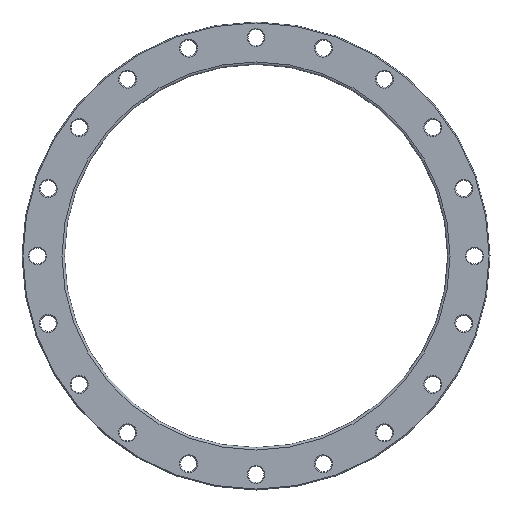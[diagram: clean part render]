
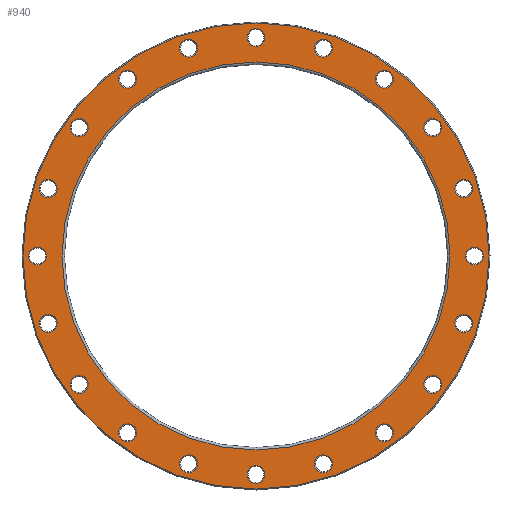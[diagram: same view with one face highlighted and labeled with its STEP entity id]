
A CAD part, front view. The second image highlights one B-rep face of the part: STEP entity #940.
In plain terms, the highlighted planar face has unit normal (0, -1, 0).
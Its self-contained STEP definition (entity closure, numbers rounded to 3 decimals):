
#23=PLANE('',#1104);
#206=ORIENTED_EDGE('',*,*,#325,.T.);
#207=ORIENTED_EDGE('',*,*,#326,.T.);
#208=ORIENTED_EDGE('',*,*,#244,.T.);
#209=ORIENTED_EDGE('',*,*,#248,.T.);
#210=ORIENTED_EDGE('',*,*,#252,.T.);
#211=ORIENTED_EDGE('',*,*,#256,.T.);
#212=ORIENTED_EDGE('',*,*,#260,.T.);
#213=ORIENTED_EDGE('',*,*,#264,.T.);
#214=ORIENTED_EDGE('',*,*,#268,.T.);
#215=ORIENTED_EDGE('',*,*,#272,.T.);
#216=ORIENTED_EDGE('',*,*,#276,.T.);
#217=ORIENTED_EDGE('',*,*,#280,.T.);
#218=ORIENTED_EDGE('',*,*,#284,.T.);
#219=ORIENTED_EDGE('',*,*,#288,.T.);
#220=ORIENTED_EDGE('',*,*,#292,.T.);
#221=ORIENTED_EDGE('',*,*,#296,.T.);
#222=ORIENTED_EDGE('',*,*,#300,.T.);
#223=ORIENTED_EDGE('',*,*,#304,.T.);
#224=ORIENTED_EDGE('',*,*,#308,.T.);
#225=ORIENTED_EDGE('',*,*,#312,.T.);
#226=ORIENTED_EDGE('',*,*,#316,.T.);
#227=ORIENTED_EDGE('',*,*,#327,.T.);
#244=EDGE_CURVE('',#332,#332,#420,.T.);
#248=EDGE_CURVE('',#336,#336,#424,.T.);
#252=EDGE_CURVE('',#340,#340,#428,.T.);
#256=EDGE_CURVE('',#344,#344,#432,.T.);
#260=EDGE_CURVE('',#348,#348,#436,.T.);
#264=EDGE_CURVE('',#352,#352,#440,.T.);
#268=EDGE_CURVE('',#356,#356,#444,.T.);
#272=EDGE_CURVE('',#360,#360,#448,.T.);
#276=EDGE_CURVE('',#364,#364,#452,.T.);
#280=EDGE_CURVE('',#368,#368,#456,.T.);
#284=EDGE_CURVE('',#372,#372,#460,.T.);
#288=EDGE_CURVE('',#376,#376,#464,.T.);
#292=EDGE_CURVE('',#380,#380,#468,.T.);
#296=EDGE_CURVE('',#384,#384,#472,.T.);
#300=EDGE_CURVE('',#388,#388,#476,.T.);
#304=EDGE_CURVE('',#392,#392,#480,.T.);
#308=EDGE_CURVE('',#396,#396,#484,.T.);
#312=EDGE_CURVE('',#400,#400,#488,.T.);
#316=EDGE_CURVE('',#404,#404,#492,.T.);
#325=EDGE_CURVE('',#413,#413,#501,.F.);
#326=EDGE_CURVE('',#414,#414,#502,.T.);
#327=EDGE_CURVE('',#415,#415,#503,.T.);
#332=VERTEX_POINT('',#1439);
#336=VERTEX_POINT('',#1450);
#340=VERTEX_POINT('',#1461);
#344=VERTEX_POINT('',#1472);
#348=VERTEX_POINT('',#1483);
#352=VERTEX_POINT('',#1494);
#356=VERTEX_POINT('',#1505);
#360=VERTEX_POINT('',#1516);
#364=VERTEX_POINT('',#1527);
#368=VERTEX_POINT('',#1538);
#372=VERTEX_POINT('',#1549);
#376=VERTEX_POINT('',#1560);
#380=VERTEX_POINT('',#1571);
#384=VERTEX_POINT('',#1582);
#388=VERTEX_POINT('',#1593);
#392=VERTEX_POINT('',#1604);
#396=VERTEX_POINT('',#1615);
#400=VERTEX_POINT('',#1626);
#404=VERTEX_POINT('',#1637);
#413=VERTEX_POINT('',#1660);
#414=VERTEX_POINT('',#1662);
#415=VERTEX_POINT('',#1664);
#420=CIRCLE('',#965,14.5);
#424=CIRCLE('',#972,14.5);
#428=CIRCLE('',#979,14.5);
#432=CIRCLE('',#986,14.5);
#436=CIRCLE('',#993,14.5);
#440=CIRCLE('',#1000,14.5);
#444=CIRCLE('',#1007,14.5);
#448=CIRCLE('',#1014,14.5);
#452=CIRCLE('',#1021,14.5);
#456=CIRCLE('',#1028,14.5);
#460=CIRCLE('',#1035,14.5);
#464=CIRCLE('',#1042,14.5);
#468=CIRCLE('',#1049,14.5);
#472=CIRCLE('',#1056,14.5);
#476=CIRCLE('',#1063,14.5);
#480=CIRCLE('',#1070,14.5);
#484=CIRCLE('',#1077,14.5);
#488=CIRCLE('',#1084,14.5);
#492=CIRCLE('',#1091,14.5);
#501=CIRCLE('',#1105,376.);
#502=CIRCLE('',#1106,313.);
#503=CIRCLE('',#1107,14.5);
#646=EDGE_LOOP('',(#206));
#647=EDGE_LOOP('',(#207));
#648=EDGE_LOOP('',(#208));
#649=EDGE_LOOP('',(#209));
#650=EDGE_LOOP('',(#210));
#651=EDGE_LOOP('',(#211));
#652=EDGE_LOOP('',(#212));
#653=EDGE_LOOP('',(#213));
#654=EDGE_LOOP('',(#214));
#655=EDGE_LOOP('',(#215));
#656=EDGE_LOOP('',(#216));
#657=EDGE_LOOP('',(#217));
#658=EDGE_LOOP('',(#218));
#659=EDGE_LOOP('',(#219));
#660=EDGE_LOOP('',(#220));
#661=EDGE_LOOP('',(#221));
#662=EDGE_LOOP('',(#222));
#663=EDGE_LOOP('',(#223));
#664=EDGE_LOOP('',(#224));
#665=EDGE_LOOP('',(#225));
#666=EDGE_LOOP('',(#226));
#667=EDGE_LOOP('',(#227));
#822=FACE_BOUND('',#646,.T.);
#823=FACE_BOUND('',#647,.T.);
#824=FACE_BOUND('',#648,.T.);
#825=FACE_BOUND('',#649,.T.);
#826=FACE_BOUND('',#650,.T.);
#827=FACE_BOUND('',#651,.T.);
#828=FACE_BOUND('',#652,.T.);
#829=FACE_BOUND('',#653,.T.);
#830=FACE_BOUND('',#654,.T.);
#831=FACE_BOUND('',#655,.T.);
#832=FACE_BOUND('',#656,.T.);
#833=FACE_BOUND('',#657,.T.);
#834=FACE_BOUND('',#658,.T.);
#835=FACE_BOUND('',#659,.T.);
#836=FACE_BOUND('',#660,.T.);
#837=FACE_BOUND('',#661,.T.);
#838=FACE_BOUND('',#662,.T.);
#839=FACE_BOUND('',#663,.T.);
#840=FACE_BOUND('',#664,.T.);
#841=FACE_BOUND('',#665,.T.);
#842=FACE_BOUND('',#666,.T.);
#843=FACE_BOUND('',#667,.T.);
#940=ADVANCED_FACE('',(#822,#823,#824,#825,#826,#827,#828,#829,#830,#831,
#832,#833,#834,#835,#836,#837,#838,#839,#840,#841,#842,#843),#23,.F.);
#965=AXIS2_PLACEMENT_3D('',#1438,#1127,#1128);
#972=AXIS2_PLACEMENT_3D('',#1449,#1141,#1142);
#979=AXIS2_PLACEMENT_3D('',#1460,#1155,#1156);
#986=AXIS2_PLACEMENT_3D('',#1471,#1169,#1170);
#993=AXIS2_PLACEMENT_3D('',#1482,#1183,#1184);
#1000=AXIS2_PLACEMENT_3D('',#1493,#1197,#1198);
#1007=AXIS2_PLACEMENT_3D('',#1504,#1211,#1212);
#1014=AXIS2_PLACEMENT_3D('',#1515,#1225,#1226);
#1021=AXIS2_PLACEMENT_3D('',#1526,#1239,#1240);
#1028=AXIS2_PLACEMENT_3D('',#1537,#1253,#1254);
#1035=AXIS2_PLACEMENT_3D('',#1548,#1267,#1268);
#1042=AXIS2_PLACEMENT_3D('',#1559,#1281,#1282);
#1049=AXIS2_PLACEMENT_3D('',#1570,#1295,#1296);
#1056=AXIS2_PLACEMENT_3D('',#1581,#1309,#1310);
#1063=AXIS2_PLACEMENT_3D('',#1592,#1323,#1324);
#1070=AXIS2_PLACEMENT_3D('',#1603,#1337,#1338);
#1077=AXIS2_PLACEMENT_3D('',#1614,#1351,#1352);
#1084=AXIS2_PLACEMENT_3D('',#1625,#1365,#1366);
#1091=AXIS2_PLACEMENT_3D('',#1636,#1379,#1380);
#1104=AXIS2_PLACEMENT_3D('',#1658,#1405,#1406);
#1105=AXIS2_PLACEMENT_3D('',#1659,#1407,#1408);
#1106=AXIS2_PLACEMENT_3D('',#1661,#1409,#1410);
#1107=AXIS2_PLACEMENT_3D('',#1663,#1411,#1412);
#1127=DIRECTION('',(0.,1.,0.));
#1128=DIRECTION('',(0.951,0.,0.309));
#1141=DIRECTION('',(0.,1.,0.));
#1142=DIRECTION('',(0.809,0.,0.588));
#1155=DIRECTION('',(0.,1.,0.));
#1156=DIRECTION('',(0.588,0.,0.809));
#1169=DIRECTION('',(0.,1.,0.));
#1170=DIRECTION('',(0.309,0.,0.951));
#1183=DIRECTION('',(0.,1.,0.));
#1184=DIRECTION('',(0.,0.,1.));
#1197=DIRECTION('',(0.,1.,0.));
#1198=DIRECTION('',(-0.309,0.,0.951));
#1211=DIRECTION('',(0.,1.,0.));
#1212=DIRECTION('',(-0.588,0.,0.809));
#1225=DIRECTION('',(0.,1.,0.));
#1226=DIRECTION('',(-0.809,0.,0.588));
#1239=DIRECTION('',(0.,1.,0.));
#1240=DIRECTION('',(-0.951,0.,0.309));
#1253=DIRECTION('',(0.,1.,0.));
#1254=DIRECTION('',(-1.,0.,0.));
#1267=DIRECTION('',(0.,1.,0.));
#1268=DIRECTION('',(-0.951,0.,-0.309));
#1281=DIRECTION('',(0.,1.,0.));
#1282=DIRECTION('',(-0.809,0.,-0.588));
#1295=DIRECTION('',(0.,1.,0.));
#1296=DIRECTION('',(-0.588,0.,-0.809));
#1309=DIRECTION('',(0.,1.,0.));
#1310=DIRECTION('',(-0.309,0.,-0.951));
#1323=DIRECTION('',(0.,1.,0.));
#1324=DIRECTION('',(0.,0.,-1.));
#1337=DIRECTION('',(0.,1.,0.));
#1338=DIRECTION('',(0.309,0.,-0.951));
#1351=DIRECTION('',(0.,1.,0.));
#1352=DIRECTION('',(0.588,0.,-0.809));
#1365=DIRECTION('',(0.,1.,0.));
#1366=DIRECTION('',(0.809,0.,-0.588));
#1379=DIRECTION('',(0.,1.,0.));
#1380=DIRECTION('',(0.951,0.,-0.309));
#1405=DIRECTION('',(0.,1.,0.));
#1406=DIRECTION('',(0.,0.,1.));
#1407=DIRECTION('',(0.,1.,0.));
#1408=DIRECTION('',(0.,0.,1.));
#1409=DIRECTION('',(0.,1.,0.));
#1410=DIRECTION('',(0.,0.,1.));
#1411=DIRECTION('',(0.,1.,0.));
#1412=DIRECTION('',(1.,0.,0.));
#1438=CARTESIAN_POINT('',(-108.928,0.,335.247));
#1439=CARTESIAN_POINT('',(-95.138,0.,339.728));
#1449=CARTESIAN_POINT('',(-207.194,0.,285.178));
#1450=CARTESIAN_POINT('',(-195.464,0.,293.701));
#1460=CARTESIAN_POINT('',(-285.178,0.,207.194));
#1461=CARTESIAN_POINT('',(-276.656,0.,218.925));
#1471=CARTESIAN_POINT('',(-335.247,0.,108.928));
#1472=CARTESIAN_POINT('',(-330.767,0.,122.719));
#1482=CARTESIAN_POINT('',(-352.5,0.,0.));
#1483=CARTESIAN_POINT('',(-352.5,0.,14.5));
#1493=CARTESIAN_POINT('',(-335.247,0.,-108.928));
#1494=CARTESIAN_POINT('',(-339.728,0.,-95.138));
#1504=CARTESIAN_POINT('',(-285.178,0.,-207.194));
#1505=CARTESIAN_POINT('',(-293.701,0.,-195.464));
#1515=CARTESIAN_POINT('',(-207.194,0.,-285.178));
#1516=CARTESIAN_POINT('',(-218.925,0.,-276.656));
#1526=CARTESIAN_POINT('',(-108.928,0.,-335.247));
#1527=CARTESIAN_POINT('',(-122.719,0.,-330.767));
#1537=CARTESIAN_POINT('',(0.,0.,-352.5));
#1538=CARTESIAN_POINT('',(-14.5,0.,-352.5));
#1548=CARTESIAN_POINT('',(108.928,0.,-335.247));
#1549=CARTESIAN_POINT('',(95.138,0.,-339.728));
#1559=CARTESIAN_POINT('',(207.194,0.,-285.178));
#1560=CARTESIAN_POINT('',(195.464,0.,-293.701));
#1570=CARTESIAN_POINT('',(285.178,0.,-207.194));
#1571=CARTESIAN_POINT('',(276.656,0.,-218.925));
#1581=CARTESIAN_POINT('',(335.247,0.,-108.928));
#1582=CARTESIAN_POINT('',(330.767,0.,-122.719));
#1592=CARTESIAN_POINT('',(352.5,0.,0.));
#1593=CARTESIAN_POINT('',(352.5,0.,-14.5));
#1603=CARTESIAN_POINT('',(335.247,0.,108.928));
#1604=CARTESIAN_POINT('',(339.728,0.,95.138));
#1614=CARTESIAN_POINT('',(285.178,0.,207.194));
#1615=CARTESIAN_POINT('',(293.701,0.,195.464));
#1625=CARTESIAN_POINT('',(207.194,0.,285.178));
#1626=CARTESIAN_POINT('',(218.925,0.,276.656));
#1636=CARTESIAN_POINT('',(108.928,0.,335.247));
#1637=CARTESIAN_POINT('',(122.719,0.,330.767));
#1658=CARTESIAN_POINT('',(0.,0.,0.));
#1659=CARTESIAN_POINT('',(0.,0.,0.));
#1660=CARTESIAN_POINT('',(0.,0.,376.));
#1661=CARTESIAN_POINT('',(0.,0.,0.));
#1662=CARTESIAN_POINT('',(0.,0.,313.));
#1663=CARTESIAN_POINT('',(0.,0.,352.5));
#1664=CARTESIAN_POINT('',(14.5,0.,352.5));
